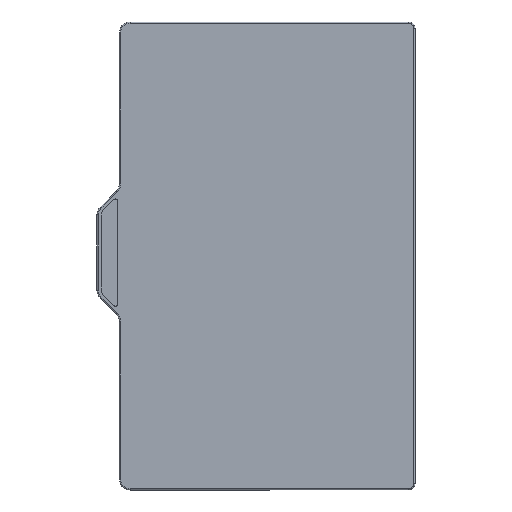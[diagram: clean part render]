
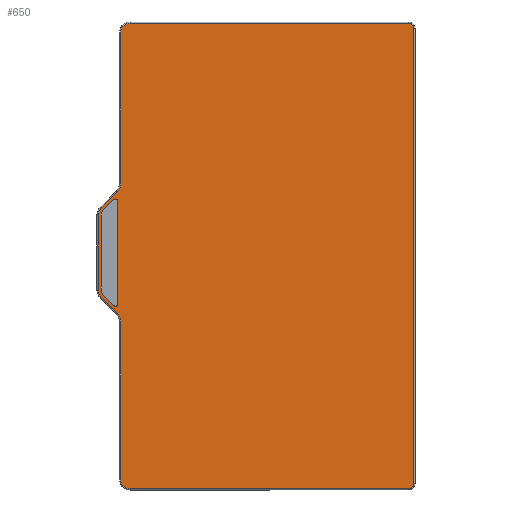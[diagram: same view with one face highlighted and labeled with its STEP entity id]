
A CAD part, left-side view. The second image highlights one B-rep face of the part: STEP entity #650.
In plain terms, the highlighted planar face has unit normal (-1, 0, 0).
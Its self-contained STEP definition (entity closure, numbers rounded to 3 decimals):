
#26=FACE_BOUND('',#154,.T.);
#27=CIRCLE('',#678,3.5);
#29=CIRCLE('',#682,1.);
#31=CIRCLE('',#686,1.);
#33=CIRCLE('',#690,3.5);
#46=CIRCLE('',#706,4.4);
#49=CIRCLE('',#711,4.4);
#52=CIRCLE('',#716,5.6);
#55=CIRCLE('',#721,4.4);
#58=CIRCLE('',#726,2.4);
#61=CIRCLE('',#731,2.4);
#64=CIRCLE('',#736,4.4);
#66=CIRCLE('',#740,5.6);
#116=FACE_OUTER_BOUND('',#153,.T.);
#153=EDGE_LOOP('',(#541,#542,#543,#544,#545,#546,#547,#548,#549,#550,#551,
#552,#553,#554,#555,#556));
#154=EDGE_LOOP('',(#557,#558,#559,#560,#561,#562,#563,#564));
#165=LINE('',#982,#213);
#170=LINE('',#996,#218);
#174=LINE('',#1008,#222);
#178=LINE('',#1020,#226);
#189=LINE('',#1065,#237);
#190=LINE('',#1073,#238);
#191=LINE('',#1081,#239);
#192=LINE('',#1089,#240);
#193=LINE('',#1097,#241);
#194=LINE('',#1105,#242);
#195=LINE('',#1113,#243);
#196=LINE('',#1121,#244);
#213=VECTOR('',#764,10.);
#218=VECTOR('',#777,10.);
#222=VECTOR('',#789,10.);
#226=VECTOR('',#801,10.);
#237=VECTOR('',#842,10.);
#238=VECTOR('',#853,10.);
#239=VECTOR('',#864,10.);
#240=VECTOR('',#875,10.);
#241=VECTOR('',#886,10.);
#242=VECTOR('',#897,10.);
#243=VECTOR('',#908,10.);
#244=VECTOR('',#919,10.);
#261=VERTEX_POINT('',#980);
#262=VERTEX_POINT('',#981);
#265=VERTEX_POINT('',#989);
#267=VERTEX_POINT('',#995);
#269=VERTEX_POINT('',#1001);
#271=VERTEX_POINT('',#1007);
#273=VERTEX_POINT('',#1013);
#275=VERTEX_POINT('',#1019);
#293=VERTEX_POINT('',#1061);
#294=VERTEX_POINT('',#1063);
#295=VERTEX_POINT('',#1067);
#296=VERTEX_POINT('',#1071);
#297=VERTEX_POINT('',#1075);
#298=VERTEX_POINT('',#1079);
#299=VERTEX_POINT('',#1083);
#300=VERTEX_POINT('',#1087);
#301=VERTEX_POINT('',#1091);
#302=VERTEX_POINT('',#1095);
#303=VERTEX_POINT('',#1099);
#304=VERTEX_POINT('',#1103);
#305=VERTEX_POINT('',#1107);
#306=VERTEX_POINT('',#1111);
#307=VERTEX_POINT('',#1115);
#308=VERTEX_POINT('',#1119);
#325=EDGE_CURVE('',#261,#262,#165,.T.);
#329=EDGE_CURVE('',#262,#265,#27,.T.);
#332=EDGE_CURVE('',#265,#267,#170,.T.);
#335=EDGE_CURVE('',#267,#269,#29,.T.);
#338=EDGE_CURVE('',#269,#271,#174,.T.);
#341=EDGE_CURVE('',#271,#273,#31,.T.);
#344=EDGE_CURVE('',#273,#275,#178,.T.);
#347=EDGE_CURVE('',#275,#261,#33,.T.);
#367=EDGE_CURVE('',#294,#293,#189,.T.);
#369=EDGE_CURVE('',#295,#294,#46,.T.);
#371=EDGE_CURVE('',#296,#295,#190,.T.);
#373=EDGE_CURVE('',#297,#296,#49,.T.);
#375=EDGE_CURVE('',#298,#297,#191,.T.);
#377=EDGE_CURVE('',#299,#298,#52,.T.);
#379=EDGE_CURVE('',#300,#299,#192,.T.);
#381=EDGE_CURVE('',#301,#300,#55,.T.);
#383=EDGE_CURVE('',#302,#301,#193,.T.);
#385=EDGE_CURVE('',#303,#302,#58,.T.);
#387=EDGE_CURVE('',#304,#303,#194,.T.);
#389=EDGE_CURVE('',#305,#304,#61,.T.);
#391=EDGE_CURVE('',#306,#305,#195,.T.);
#393=EDGE_CURVE('',#307,#306,#64,.T.);
#395=EDGE_CURVE('',#308,#307,#196,.T.);
#396=EDGE_CURVE('',#293,#308,#66,.T.);
#541=ORIENTED_EDGE('',*,*,#367,.F.);
#542=ORIENTED_EDGE('',*,*,#369,.F.);
#543=ORIENTED_EDGE('',*,*,#371,.F.);
#544=ORIENTED_EDGE('',*,*,#373,.F.);
#545=ORIENTED_EDGE('',*,*,#375,.F.);
#546=ORIENTED_EDGE('',*,*,#377,.F.);
#547=ORIENTED_EDGE('',*,*,#379,.F.);
#548=ORIENTED_EDGE('',*,*,#381,.F.);
#549=ORIENTED_EDGE('',*,*,#383,.F.);
#550=ORIENTED_EDGE('',*,*,#385,.F.);
#551=ORIENTED_EDGE('',*,*,#387,.F.);
#552=ORIENTED_EDGE('',*,*,#389,.F.);
#553=ORIENTED_EDGE('',*,*,#391,.F.);
#554=ORIENTED_EDGE('',*,*,#393,.F.);
#555=ORIENTED_EDGE('',*,*,#395,.F.);
#556=ORIENTED_EDGE('',*,*,#396,.F.);
#557=ORIENTED_EDGE('',*,*,#338,.T.);
#558=ORIENTED_EDGE('',*,*,#341,.T.);
#559=ORIENTED_EDGE('',*,*,#344,.T.);
#560=ORIENTED_EDGE('',*,*,#347,.T.);
#561=ORIENTED_EDGE('',*,*,#325,.T.);
#562=ORIENTED_EDGE('',*,*,#329,.T.);
#563=ORIENTED_EDGE('',*,*,#332,.T.);
#564=ORIENTED_EDGE('',*,*,#335,.T.);
#618=PLANE('',#741);
#650=ADVANCED_FACE('',(#116,#26),#618,.T.);
#678=AXIS2_PLACEMENT_3D('',#990,#770,#771);
#682=AXIS2_PLACEMENT_3D('',#1002,#782,#783);
#686=AXIS2_PLACEMENT_3D('',#1014,#794,#795);
#690=AXIS2_PLACEMENT_3D('',#1025,#806,#807);
#706=AXIS2_PLACEMENT_3D('',#1069,#847,#848);
#711=AXIS2_PLACEMENT_3D('',#1077,#858,#859);
#716=AXIS2_PLACEMENT_3D('',#1085,#869,#870);
#721=AXIS2_PLACEMENT_3D('',#1093,#880,#881);
#726=AXIS2_PLACEMENT_3D('',#1101,#891,#892);
#731=AXIS2_PLACEMENT_3D('',#1109,#902,#903);
#736=AXIS2_PLACEMENT_3D('',#1117,#913,#914);
#740=AXIS2_PLACEMENT_3D('',#1123,#922,#923);
#741=AXIS2_PLACEMENT_3D('',#1124,#924,#925);
#764=DIRECTION('',(0.,0.,1.));
#770=DIRECTION('center_axis',(1.,0.,0.));
#771=DIRECTION('ref_axis',(0.,1.,0.));
#777=DIRECTION('',(0.,-0.707,0.707));
#782=DIRECTION('center_axis',(1.,0.,0.));
#783=DIRECTION('ref_axis',(0.,0.707,0.707));
#789=DIRECTION('',(0.,0.,-1.));
#794=DIRECTION('center_axis',(1.,0.,0.));
#795=DIRECTION('ref_axis',(0.,-1.,0.));
#801=DIRECTION('',(0.,0.707,0.707));
#806=DIRECTION('center_axis',(1.,0.,0.));
#807=DIRECTION('ref_axis',(0.,0.707,-0.707));
#842=DIRECTION('',(0.,-0.707,0.707));
#847=DIRECTION('center_axis',(1.,0.,0.));
#848=DIRECTION('ref_axis',(0.,0.924,0.383));
#853=DIRECTION('',(0.,0.,1.));
#858=DIRECTION('center_axis',(1.,0.,0.));
#859=DIRECTION('ref_axis',(0.,0.924,-0.383));
#864=DIRECTION('',(0.,0.707,0.707));
#869=DIRECTION('center_axis',(-1.,0.,0.));
#870=DIRECTION('ref_axis',(0.,-0.924,0.383));
#875=DIRECTION('',(0.,0.,1.));
#880=DIRECTION('center_axis',(1.,0.,0.));
#881=DIRECTION('ref_axis',(0.,0.707,-0.707));
#886=DIRECTION('',(0.,1.,0.));
#891=DIRECTION('center_axis',(1.,0.,0.));
#892=DIRECTION('ref_axis',(0.,-0.707,-0.707));
#897=DIRECTION('',(0.,0.,-1.));
#902=DIRECTION('center_axis',(1.,0.,0.));
#903=DIRECTION('ref_axis',(0.,-0.707,0.707));
#908=DIRECTION('',(0.,-1.,0.));
#913=DIRECTION('center_axis',(1.,0.,0.));
#914=DIRECTION('ref_axis',(0.,0.707,0.707));
#919=DIRECTION('',(0.,0.,1.));
#922=DIRECTION('center_axis',(-1.,0.,0.));
#923=DIRECTION('ref_axis',(0.,-0.924,-0.383));
#924=DIRECTION('center_axis',(-1.,0.,0.));
#925=DIRECTION('ref_axis',(0.,0.,1.));
#980=CARTESIAN_POINT('',(3.,150.095,-128.571));
#981=CARTESIAN_POINT('',(3.,150.095,-93.21));
#982=CARTESIAN_POINT('',(3.,150.095,-102.855));
#989=CARTESIAN_POINT('',(3.,149.07,-90.736));
#990=CARTESIAN_POINT('Origin',(3.,146.595,-93.21));
#995=CARTESIAN_POINT('',(3.,144.196,-85.861));
#996=CARTESIAN_POINT('',(3.,134.081,-75.746));
#1001=CARTESIAN_POINT('',(3.,142.489,-86.568));
#1002=CARTESIAN_POINT('Origin',(3.,143.489,-86.568));
#1007=CARTESIAN_POINT('',(3.,142.489,-135.213));
#1008=CARTESIAN_POINT('',(3.,142.489,-123.857));
#1013=CARTESIAN_POINT('',(3.,144.196,-135.921));
#1014=CARTESIAN_POINT('Origin',(3.,143.489,-135.213));
#1019=CARTESIAN_POINT('',(3.,149.07,-131.046));
#1020=CARTESIAN_POINT('',(3.,135.714,-144.403));
#1025=CARTESIAN_POINT('Origin',(3.,146.595,-128.571));
#1061=CARTESIAN_POINT('',(3.,142.629,-82.173));
#1063=CARTESIAN_POINT('',(3.,150.307,-89.851));
#1065=CARTESIAN_POINT('',(3.,133.828,-73.372));
#1067=CARTESIAN_POINT('',(3.,151.595,-92.962));
#1069=CARTESIAN_POINT('Origin',(3.,147.195,-92.962));
#1071=CARTESIAN_POINT('',(3.,151.595,-128.82));
#1073=CARTESIAN_POINT('',(3.,151.595,-102.731));
#1075=CARTESIAN_POINT('',(3.,150.307,-131.931));
#1077=CARTESIAN_POINT('Origin',(3.,147.195,-128.82));
#1079=CARTESIAN_POINT('',(3.,142.629,-139.609));
#1081=CARTESIAN_POINT('',(3.,136.862,-145.376));
#1083=CARTESIAN_POINT('',(3.,140.989,-143.569));
#1085=CARTESIAN_POINT('Origin',(3.,146.589,-143.569));
#1087=CARTESIAN_POINT('',(3.,140.989,-218.));
#1089=CARTESIAN_POINT('',(3.,140.989,-128.034));
#1091=CARTESIAN_POINT('',(3.,136.589,-222.4));
#1093=CARTESIAN_POINT('Origin',(3.,136.589,-218.));
#1095=CARTESIAN_POINT('',(3.,5.,-222.4));
#1097=CARTESIAN_POINT('',(3.,106.843,-222.4));
#1099=CARTESIAN_POINT('',(3.,2.6,-220.));
#1101=CARTESIAN_POINT('Origin',(3.,5.,-220.));
#1103=CARTESIAN_POINT('',(3.,2.6,-5.));
#1105=CARTESIAN_POINT('',(3.,2.6,-166.25));
#1107=CARTESIAN_POINT('',(3.,5.,-2.6));
#1109=CARTESIAN_POINT('Origin',(3.,5.,-5.));
#1111=CARTESIAN_POINT('',(3.,136.589,-2.6));
#1113=CARTESIAN_POINT('',(3.,41.049,-2.6));
#1115=CARTESIAN_POINT('',(3.,140.989,-7.));
#1117=CARTESIAN_POINT('Origin',(3.,136.589,-7.));
#1119=CARTESIAN_POINT('',(3.,140.989,-78.213));
#1121=CARTESIAN_POINT('',(3.,140.989,-59.75));
#1123=CARTESIAN_POINT('Origin',(3.,146.589,-78.213));
#1124=CARTESIAN_POINT('Origin',(3.,77.098,-112.5));
